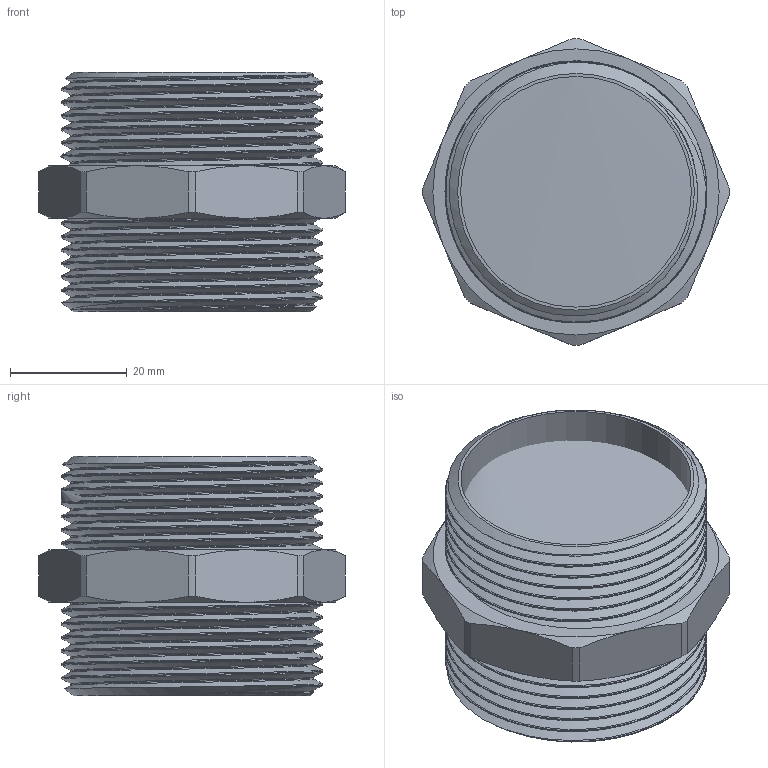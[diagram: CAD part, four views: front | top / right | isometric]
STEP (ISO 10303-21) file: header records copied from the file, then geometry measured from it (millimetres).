
FILE_DESCRIPTION(/* description */ (''),/* implementation_level */ '2;1');
FILE_NAME(/* name */ 'C:\Users\Doom\Desktop\Фадотех\Резьба\N05 17.03.2020\N05 17.03.2020.stp',/* time_stamp */ '2022-01-07T17:42:24+02:00',/* author */ ('Doom'),/* organization */ (''),/* preprocessor_version */ 'ST-DEVELOPER v18',/* originating_system */ 'Autodesk Inventor 2020',/* authorisation */ '');
FILE_SCHEMA (('AUTOMOTIVE_DESIGN { 1 0 10303 214 3 1 1 }'));
Length unit declared in the file: millimetre
Products named in the file (1): N05 17.03.2020
Bounding box: 52.5 x 52.5 x 41 mm (x, y, z)
Volume: 16542.7 mm3; surface area: 15940.3 mm2
Topology: 1 solids, 1 shells, 52 faces, 144 edges, 96 vertices
Faces by surface type: cylinder 24, bspline 12, plane 12, cone 4
Full cylindrical faces by diameter (mm): 39.5 x1, 44.85 x11
Entity records: 9724 total; most frequent: CARTESIAN_POINT 8526, ORIENTED_EDGE 288, DIRECTION 176, EDGE_CURVE 144, VERTEX_POINT 96, AXIS2_PLACEMENT_3D 71, B_SPLINE_CURVE_WITH_KNOTS 64, EDGE_LOOP 56
